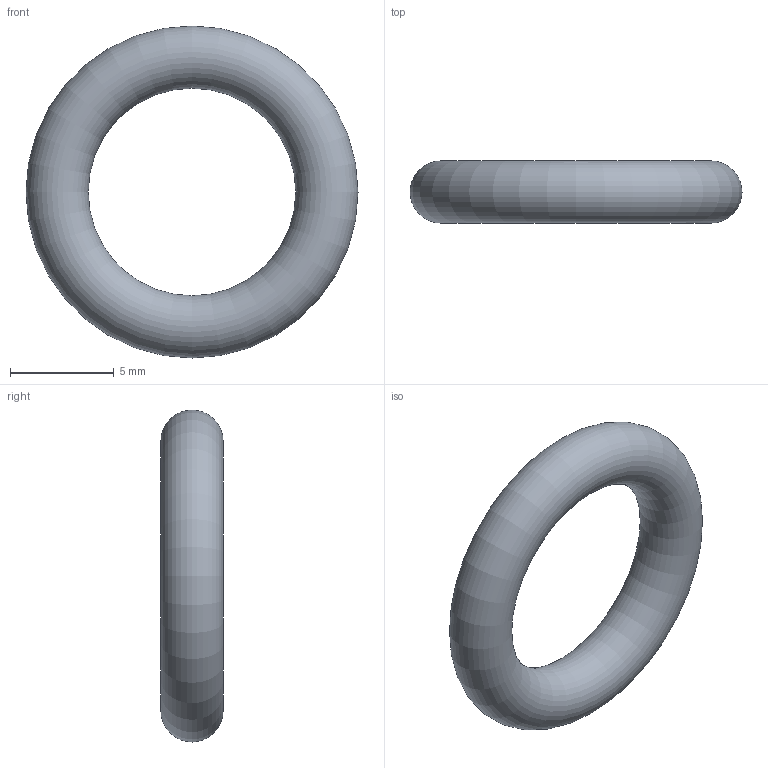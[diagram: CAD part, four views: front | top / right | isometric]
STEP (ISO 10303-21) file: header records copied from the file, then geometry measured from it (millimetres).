
FILE_DESCRIPTION( ( 'STEP AP203' ), '1' );
FILE_NAME( 'C:/Temp/Ganter_Step_05_03_2020/data/3_5/or638/O-Ring OR638-10.00-3.00-70.stp', '2020-03-12T13:44:29', ( 'License CC BY-ND 4.0' ), ( 'CADENAS' ), ' ', 'PARTsolutions', ' ' );
FILE_SCHEMA( ( 'CONFIG_CONTROL_DESIGN' ) );
Length unit declared in the file: millimetre
Products named in the file (1): _O-Ring OR638-10.00-3.00-70
Bounding box: 16 x 3 x 16 mm (x, y, z)
Volume: 288.7 mm3; surface area: 384.9 mm2
Topology: 1 solids, 1 shells, 1 faces, 2 edges, 1 vertices
Faces by surface type: torus 1
Entity records: 62 total; most frequent: CC_DESIGN_PERSON_AND_ORGANIZATION_ASSIGNMENT 5, PERSON_AND_ORGANIZATION_ROLE 4, DIRECTION 4, CARTESIAN_POINT 3, DATE_TIME_ROLE 2, CC_DESIGN_DATE_AND_TIME_ASSIGNMENT 2, AXIS2_PLACEMENT_3D 2, DIMENSIONAL_EXPONENTS 2
